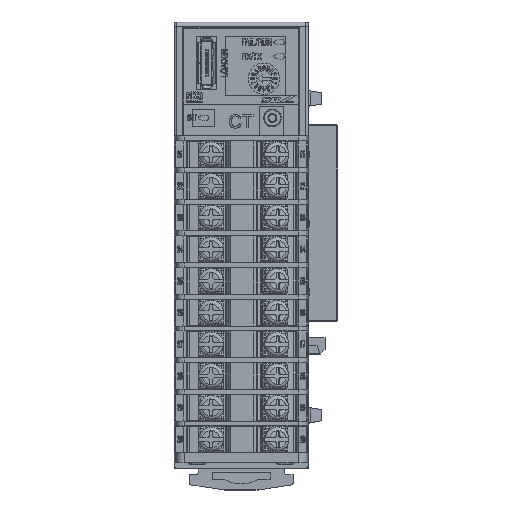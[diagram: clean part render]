
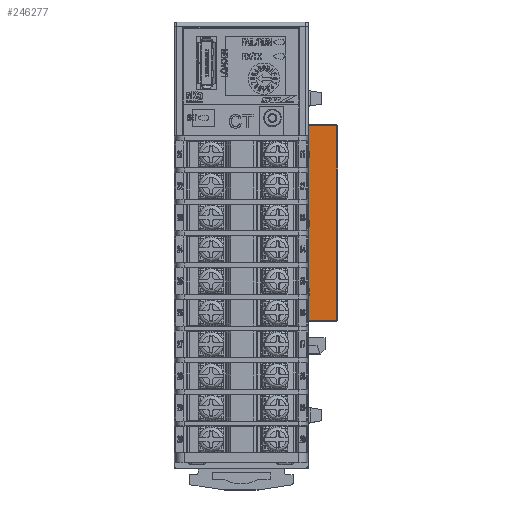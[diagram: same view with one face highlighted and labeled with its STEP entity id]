
A CAD part, top view. The second image highlights one B-rep face of the part: STEP entity #246277.
In plain terms, the highlighted planar face has unit normal (0, 0, 1).
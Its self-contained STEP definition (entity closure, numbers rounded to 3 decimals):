
#7435 = VECTOR ( 'NONE', #157773, 1000. ) ;
#8413 = VERTEX_POINT ( 'NONE', #44938 ) ;
#9210 = VERTEX_POINT ( 'NONE', #111156 ) ;
#9884 = DIRECTION ( 'NONE',  ( -1., 0., 0. ) ) ;
#10716 = CARTESIAN_POINT ( 'NONE',  ( 13.35, 5.7, 12.8 ) ) ;
#11214 = DIRECTION ( 'NONE',  ( 1., 0., 0. ) ) ;
#12909 = VERTEX_POINT ( 'NONE', #210960 ) ;
#16054 = VECTOR ( 'NONE', #125093, 1000. ) ;
#16601 = VERTEX_POINT ( 'NONE', #96776 ) ;
#31525 = CARTESIAN_POINT ( 'NONE',  ( 15.35, 21.1, 12.8 ) ) ;
#32564 = EDGE_CURVE ( 'NONE', #8413, #164558, #87398, .T. ) ;
#35081 = DIRECTION ( 'NONE',  ( -1., 0., 0. ) ) ;
#38777 = VERTEX_POINT ( 'NONE', #92657 ) ;
#40768 = EDGE_CURVE ( 'NONE', #167753, #157897, #241965, .T. ) ;
#40878 = VECTOR ( 'NONE', #235262, 1000. ) ;
#41490 = CARTESIAN_POINT ( 'NONE',  ( 21.65, -17.05, 12.8 ) ) ;
#42320 = DIRECTION ( 'NONE',  ( 0., 0., -1. ) ) ;
#44938 = CARTESIAN_POINT ( 'NONE',  ( 15.35, 19.7, 12.8 ) ) ;
#46232 = FACE_OUTER_BOUND ( 'NONE', #91904, .T. ) ;
#46612 = VECTOR ( 'NONE', #172525, 1000. ) ;
#46853 = CARTESIAN_POINT ( 'NONE',  ( 13.35, 21.1, 12.8 ) ) ;
#46913 = VECTOR ( 'NONE', #11214, 1000. ) ;
#50007 = ORIENTED_EDGE ( 'NONE', *, *, #115153, .F. ) ;
#50255 = VECTOR ( 'NONE', #94876, 1000. ) ;
#51682 = ORIENTED_EDGE ( 'NONE', *, *, #40768, .T. ) ;
#53383 = CARTESIAN_POINT ( 'NONE',  ( 21.65, 26.85, 12.8 ) ) ;
#56601 = EDGE_CURVE ( 'NONE', #164558, #152475, #183990, .T. ) ;
#57022 = DIRECTION ( 'NONE',  ( 0., -1., 0. ) ) ;
#58657 = CARTESIAN_POINT ( 'NONE',  ( 21.45, -17.05, 12.8 ) ) ;
#62989 = CARTESIAN_POINT ( 'NONE',  ( 13.35, 19.7, 12.8 ) ) ;
#67956 = LINE ( 'NONE', #73366, #163079 ) ;
#69349 = LINE ( 'NONE', #210248, #164449 ) ;
#69823 = DIRECTION ( 'NONE',  ( 0., 1., 0. ) ) ;
#70401 = VECTOR ( 'NONE', #136293, 1000. ) ;
#73366 = CARTESIAN_POINT ( 'NONE',  ( 15.35, -11.1, 12.8 ) ) ;
#74491 = CARTESIAN_POINT ( 'NONE',  ( 15.35, 4.3, 12.8 ) ) ;
#76965 = VECTOR ( 'NONE', #232251, 1000. ) ;
#79607 = LINE ( 'NONE', #177794, #40878 ) ;
#80122 = CARTESIAN_POINT ( 'NONE',  ( 21.65, 21.1, 12.8 ) ) ;
#80558 = EDGE_CURVE ( 'NONE', #154170, #216042, #246690, .T. ) ;
#81114 = ORIENTED_EDGE ( 'NONE', *, *, #113425, .F. ) ;
#83894 = AXIS2_PLACEMENT_3D ( 'NONE', #41490, #42320, #175322 ) ;
#85939 = VECTOR ( 'NONE', #245802, 1000. ) ;
#87398 = LINE ( 'NONE', #31525, #182521 ) ;
#91174 = DIRECTION ( 'NONE',  ( 0., -1., 0. ) ) ;
#91904 = EDGE_LOOP ( 'NONE', ( #244131, #187210, #50007, #221972, #162644, #226268, #81114, #173056, #238270, #183893, #238148, #111505, #173731, #188187, #51682, #122452 ) ) ;
#92560 = EDGE_CURVE ( 'NONE', #16601, #38777, #187014, .T. ) ;
#92657 = CARTESIAN_POINT ( 'NONE',  ( 15.35, 4.3, 12.8 ) ) ;
#93126 = LINE ( 'NONE', #218561, #244861 ) ;
#93446 = VERTEX_POINT ( 'NONE', #147084 ) ;
#94876 = DIRECTION ( 'NONE',  ( 0., -1., 0. ) ) ;
#95426 = VERTEX_POINT ( 'NONE', #118259 ) ;
#96776 = CARTESIAN_POINT ( 'NONE',  ( 15.35, 5.7, 12.8 ) ) ;
#106013 = EDGE_CURVE ( 'NONE', #12909, #208909, #160618, .T. ) ;
#110076 = VECTOR ( 'NONE', #57022, 1000. ) ;
#111156 = CARTESIAN_POINT ( 'NONE',  ( 13.35, -11.1, 12.8 ) ) ;
#111505 = ORIENTED_EDGE ( 'NONE', *, *, #152230, .T. ) ;
#112787 = CARTESIAN_POINT ( 'NONE',  ( 13.35, 27.05, 12.8 ) ) ;
#113425 = EDGE_CURVE ( 'NONE', #12909, #38777, #136125, .T. ) ;
#115153 = EDGE_CURVE ( 'NONE', #154170, #8413, #222110, .T. ) ;
#117206 = CARTESIAN_POINT ( 'NONE',  ( 21.65, 19.7, 12.8 ) ) ;
#118259 = CARTESIAN_POINT ( 'NONE',  ( 13.35, -16.85, 12.8 ) ) ;
#122452 = ORIENTED_EDGE ( 'NONE', *, *, #155514, .T. ) ;
#125093 = DIRECTION ( 'NONE',  ( 1., 0., 0. ) ) ;
#125126 = CARTESIAN_POINT ( 'NONE',  ( 21.65, 4.3, 12.8 ) ) ;
#134772 = VECTOR ( 'NONE', #35081, 1000. ) ;
#135560 = CARTESIAN_POINT ( 'NONE',  ( 13.35, -9.7, 12.8 ) ) ;
#136125 = LINE ( 'NONE', #125126, #46913 ) ;
#136293 = DIRECTION ( 'NONE',  ( 1., 0., 0. ) ) ;
#136552 = CARTESIAN_POINT ( 'NONE',  ( 13.35, 26.85, 12.8 ) ) ;
#138676 = CARTESIAN_POINT ( 'NONE',  ( 21.65, 5.7, 12.8 ) ) ;
#146494 = EDGE_CURVE ( 'NONE', #9210, #93446, #79607, .T. ) ;
#147084 = CARTESIAN_POINT ( 'NONE',  ( 15.35, -11.1, 12.8 ) ) ;
#147274 = LINE ( 'NONE', #138676, #7435 ) ;
#147793 = LINE ( 'NONE', #58657, #46612 ) ;
#152230 = EDGE_CURVE ( 'NONE', #9210, #95426, #213405, .T. ) ;
#152475 = VERTEX_POINT ( 'NONE', #46853 ) ;
#154170 = VERTEX_POINT ( 'NONE', #62989 ) ;
#155514 = EDGE_CURVE ( 'NONE', #157897, #152475, #69349, .T. ) ;
#156227 = PLANE ( 'NONE',  #83894 ) ;
#157773 = DIRECTION ( 'NONE',  ( -1., 0., 0. ) ) ;
#157897 = VERTEX_POINT ( 'NONE', #136552 ) ;
#160618 = LINE ( 'NONE', #112787, #110076 ) ;
#162644 = ORIENTED_EDGE ( 'NONE', *, *, #223738, .F. ) ;
#163079 = VECTOR ( 'NONE', #187217, 1000. ) ;
#164449 = VECTOR ( 'NONE', #191136, 1000. ) ;
#164558 = VERTEX_POINT ( 'NONE', #212717 ) ;
#167753 = VERTEX_POINT ( 'NONE', #227666 ) ;
#168702 = VECTOR ( 'NONE', #91174, 1000. ) ;
#172525 = DIRECTION ( 'NONE',  ( 0., -1., 0. ) ) ;
#173056 = ORIENTED_EDGE ( 'NONE', *, *, #106013, .T. ) ;
#173731 = ORIENTED_EDGE ( 'NONE', *, *, #228729, .T. ) ;
#175322 = DIRECTION ( 'NONE',  ( -1., 0., 0. ) ) ;
#177794 = CARTESIAN_POINT ( 'NONE',  ( 21.65, -11.1, 12.8 ) ) ;
#182521 = VECTOR ( 'NONE', #69823, 1000. ) ;
#183893 = ORIENTED_EDGE ( 'NONE', *, *, #243381, .T. ) ;
#183990 = LINE ( 'NONE', #80122, #76965 ) ;
#187014 = LINE ( 'NONE', #74491, #85939 ) ;
#187210 = ORIENTED_EDGE ( 'NONE', *, *, #32564, .F. ) ;
#187217 = DIRECTION ( 'NONE',  ( 0., -1., 0. ) ) ;
#188187 = ORIENTED_EDGE ( 'NONE', *, *, #218132, .F. ) ;
#191136 = DIRECTION ( 'NONE',  ( 0., -1., 0. ) ) ;
#192768 = EDGE_CURVE ( 'NONE', #211081, #208909, #93126, .T. ) ;
#205067 = CARTESIAN_POINT ( 'NONE',  ( 13.35, 27.05, 12.8 ) ) ;
#206494 = LINE ( 'NONE', #240671, #16054 ) ;
#208389 = VERTEX_POINT ( 'NONE', #239124 ) ;
#208636 = CARTESIAN_POINT ( 'NONE',  ( 15.35, -9.7, 12.8 ) ) ;
#208757 = CARTESIAN_POINT ( 'NONE',  ( 13.35, 27.05, 12.8 ) ) ;
#208909 = VERTEX_POINT ( 'NONE', #135560 ) ;
#210248 = CARTESIAN_POINT ( 'NONE',  ( 13.35, 27.05, 12.8 ) ) ;
#210960 = CARTESIAN_POINT ( 'NONE',  ( 13.35, 4.3, 12.8 ) ) ;
#211081 = VERTEX_POINT ( 'NONE', #208636 ) ;
#212717 = CARTESIAN_POINT ( 'NONE',  ( 15.35, 21.1, 12.8 ) ) ;
#213405 = LINE ( 'NONE', #205067, #168702 ) ;
#216042 = VERTEX_POINT ( 'NONE', #10716 ) ;
#218132 = EDGE_CURVE ( 'NONE', #167753, #208389, #147793, .T. ) ;
#218561 = CARTESIAN_POINT ( 'NONE',  ( 21.65, -9.7, 12.8 ) ) ;
#221972 = ORIENTED_EDGE ( 'NONE', *, *, #80558, .T. ) ;
#222110 = LINE ( 'NONE', #117206, #70401 ) ;
#223738 = EDGE_CURVE ( 'NONE', #16601, #216042, #147274, .T. ) ;
#226268 = ORIENTED_EDGE ( 'NONE', *, *, #92560, .T. ) ;
#227666 = CARTESIAN_POINT ( 'NONE',  ( 21.45, 26.85, 12.8 ) ) ;
#228729 = EDGE_CURVE ( 'NONE', #95426, #208389, #206494, .T. ) ;
#232251 = DIRECTION ( 'NONE',  ( -1., 0., 0. ) ) ;
#235262 = DIRECTION ( 'NONE',  ( 1., 0., 0. ) ) ;
#238148 = ORIENTED_EDGE ( 'NONE', *, *, #146494, .F. ) ;
#238270 = ORIENTED_EDGE ( 'NONE', *, *, #192768, .F. ) ;
#239124 = CARTESIAN_POINT ( 'NONE',  ( 21.45, -16.85, 12.8 ) ) ;
#240671 = CARTESIAN_POINT ( 'NONE',  ( 14.25, -16.85, 12.8 ) ) ;
#241965 = LINE ( 'NONE', #53383, #134772 ) ;
#243381 = EDGE_CURVE ( 'NONE', #211081, #93446, #67956, .T. ) ;
#244131 = ORIENTED_EDGE ( 'NONE', *, *, #56601, .F. ) ;
#244861 = VECTOR ( 'NONE', #9884, 1000. ) ;
#245802 = DIRECTION ( 'NONE',  ( 0., -1., 0. ) ) ;
#246277 = ADVANCED_FACE ( 'NONE', ( #46232 ), #156227, .F. ) ;
#246690 = LINE ( 'NONE', #208757, #50255 ) ;
